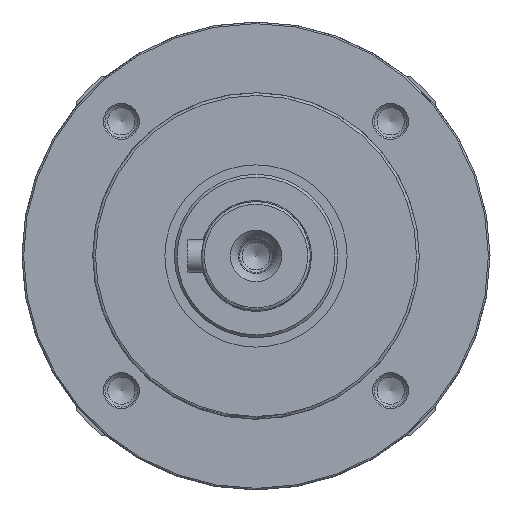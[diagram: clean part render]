
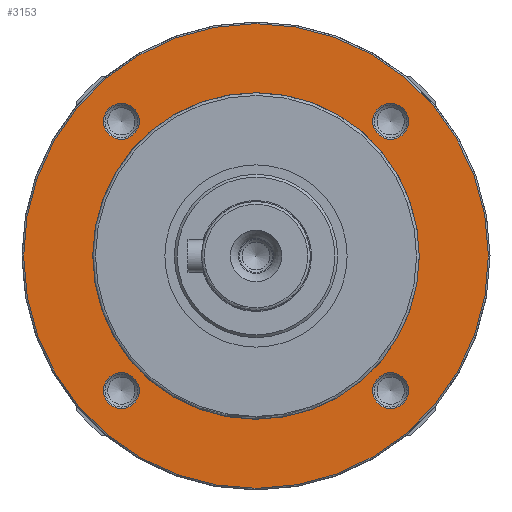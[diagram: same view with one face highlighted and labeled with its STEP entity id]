
A CAD part, left-side view. The second image highlights one B-rep face of the part: STEP entity #3153.
In plain terms, the highlighted planar face has unit normal (-1, 0, 0).
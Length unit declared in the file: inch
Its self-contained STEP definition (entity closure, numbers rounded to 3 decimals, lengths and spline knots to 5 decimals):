
#615=FACE_BOUND('',#891,.T.);
#616=FACE_BOUND('',#892,.T.);
#617=FACE_BOUND('',#893,.T.);
#618=FACE_BOUND('',#894,.T.);
#619=FACE_BOUND('',#895,.T.);
#684=FACE_OUTER_BOUND('',#890,.T.);
#890=EDGE_LOOP('',(#2251));
#891=EDGE_LOOP('',(#2252));
#892=EDGE_LOOP('',(#2253));
#893=EDGE_LOOP('',(#2254));
#894=EDGE_LOOP('',(#2255));
#895=EDGE_LOOP('',(#2256));
#1144=CIRCLE('',#3415,1.6811);
#1150=CIRCLE('',#3427,0.12992);
#1151=CIRCLE('',#3428,0.12992);
#1152=CIRCLE('',#3429,0.12992);
#1153=CIRCLE('',#3430,1.1811);
#1154=CIRCLE('',#3431,0.12992);
#1367=VERTEX_POINT('',#4952);
#1372=VERTEX_POINT('',#4971);
#1373=VERTEX_POINT('',#4973);
#1374=VERTEX_POINT('',#4975);
#1375=VERTEX_POINT('',#4977);
#1376=VERTEX_POINT('',#4979);
#1706=EDGE_CURVE('',#1367,#1367,#1144,.T.);
#1714=EDGE_CURVE('',#1372,#1372,#1150,.T.);
#1715=EDGE_CURVE('',#1373,#1373,#1151,.T.);
#1716=EDGE_CURVE('',#1374,#1374,#1152,.T.);
#1717=EDGE_CURVE('',#1375,#1375,#1153,.T.);
#1718=EDGE_CURVE('',#1376,#1376,#1154,.T.);
#2251=ORIENTED_EDGE('',*,*,#1706,.F.);
#2252=ORIENTED_EDGE('',*,*,#1714,.T.);
#2253=ORIENTED_EDGE('',*,*,#1715,.T.);
#2254=ORIENTED_EDGE('',*,*,#1716,.T.);
#2255=ORIENTED_EDGE('',*,*,#1717,.F.);
#2256=ORIENTED_EDGE('',*,*,#1718,.T.);
#3070=PLANE('',#3426);
#3153=ADVANCED_FACE('',(#684,#615,#616,#617,#618,#619),#3070,.T.);
#3415=AXIS2_PLACEMENT_3D('',#4953,#3919,#3920);
#3426=AXIS2_PLACEMENT_3D('',#4970,#3943,#3944);
#3427=AXIS2_PLACEMENT_3D('',#4972,#3945,#3946);
#3428=AXIS2_PLACEMENT_3D('',#4974,#3947,#3948);
#3429=AXIS2_PLACEMENT_3D('',#4976,#3949,#3950);
#3430=AXIS2_PLACEMENT_3D('',#4978,#3951,#3952);
#3431=AXIS2_PLACEMENT_3D('',#4980,#3953,#3954);
#3919=DIRECTION('center_axis',(1.,0.,0.));
#3920=DIRECTION('ref_axis',(0.,-1.,0.));
#3943=DIRECTION('center_axis',(-1.,0.,0.));
#3944=DIRECTION('ref_axis',(0.,1.,0.));
#3945=DIRECTION('center_axis',(1.,0.,0.));
#3946=DIRECTION('ref_axis',(0.,0.,-1.));
#3947=DIRECTION('center_axis',(1.,0.,0.));
#3948=DIRECTION('ref_axis',(0.,0.,-1.));
#3949=DIRECTION('center_axis',(1.,0.,0.));
#3950=DIRECTION('ref_axis',(0.,0.,-1.));
#3951=DIRECTION('center_axis',(-1.,0.,0.));
#3952=DIRECTION('ref_axis',(0.,1.,0.));
#3953=DIRECTION('center_axis',(1.,0.,0.));
#3954=DIRECTION('ref_axis',(0.,0.,-1.));
#4952=CARTESIAN_POINT('',(-3.22835,1.68109,-0.00737));
#4953=CARTESIAN_POINT('Origin',(-3.22835,0.,0.));
#4970=CARTESIAN_POINT('Origin',(-3.22835,0.,
0.));
#4971=CARTESIAN_POINT('',(-3.22835,0.97436,-0.84444));
#4972=CARTESIAN_POINT('Origin',(-3.22835,0.97436,-0.97436));
#4973=CARTESIAN_POINT('',(-3.22835,-0.97436,-0.84444));
#4974=CARTESIAN_POINT('Origin',(-3.22835,-0.97436,-0.97436));
#4975=CARTESIAN_POINT('',(-3.22835,-0.97436,1.10428));
#4976=CARTESIAN_POINT('Origin',(-3.22835,-0.97436,0.97436));
#4977=CARTESIAN_POINT('',(-3.22835,-1.18105,-0.011));
#4978=CARTESIAN_POINT('Origin',(-3.22835,0.,0.));
#4979=CARTESIAN_POINT('',(-3.22835,0.97436,1.10428));
#4980=CARTESIAN_POINT('Origin',(-3.22835,0.97436,0.97436));
